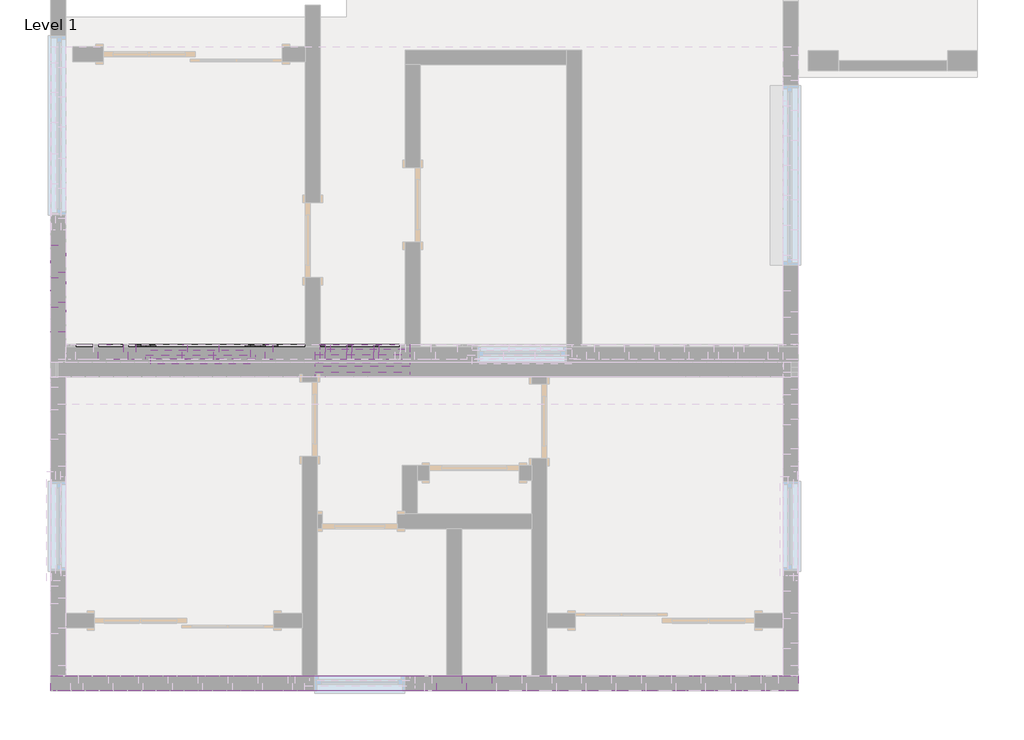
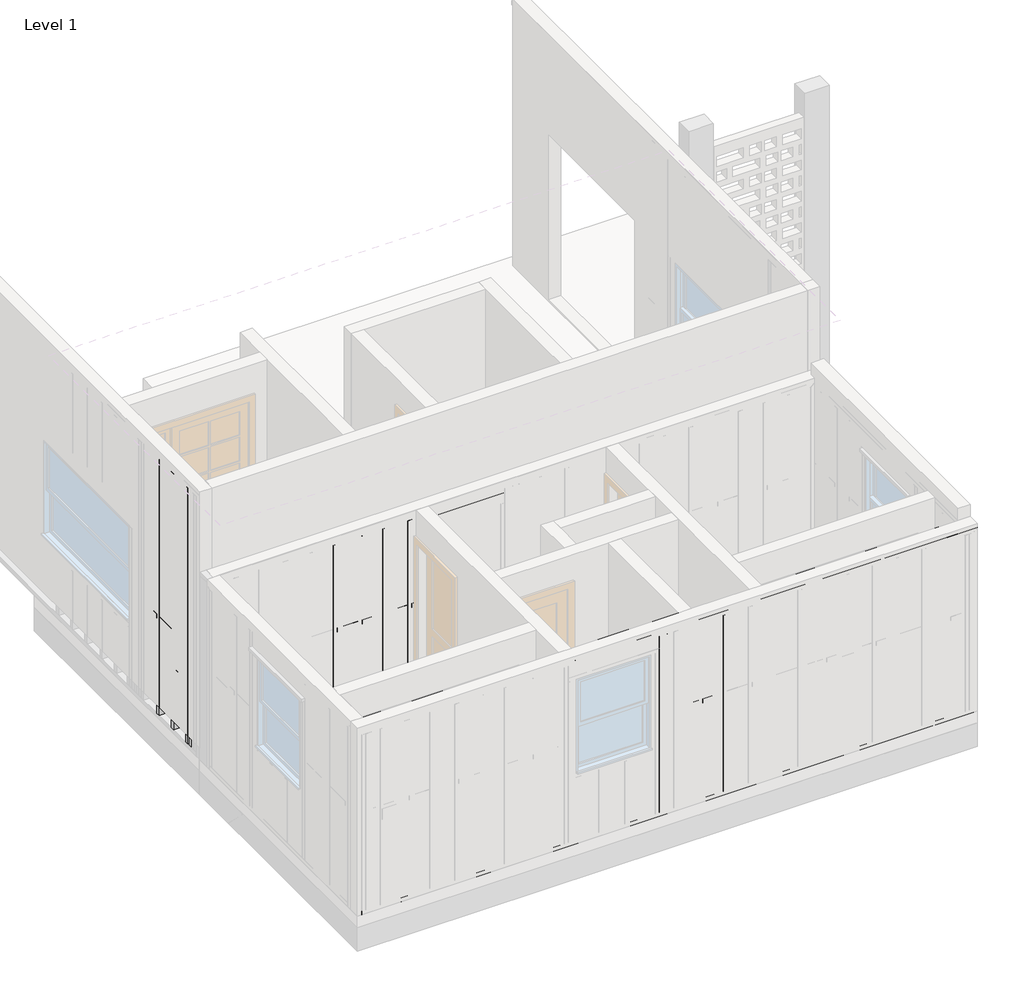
# One storey, part 4 of 12: 100 beams.
"""IFC4 building model written with IfcOpenShell, lengths in millimetres."""

from ifc_helpers import new_model, si_unit, frame, origin, origin_with_axes, place, context, project, spatial, polyline, outline, extrude, transform, mapped, element, save
from components import beam_98278f2a, beam_7a36c676, beam_c94f25b3, beam_4fda8a04, beam_c9519db3, beam_5da65a01, beam_0603a184, beam_5669776f, beam_bd63a015, beam_4a917e0c, beam_8cce5a94, beam_558964e0, beam_a6087a68, beam_1bbe21a3, beam_7e436a35, beam_47c8efd2, beam_e0216813, beam_4715e774, beam_b7962ac8, beam_15472744, beam_b2f74068, beam_e05c4371, beam_19b97b81, beam_0edfb8d4, beam_7d02393c, beam_98f1c117, beam_62b04b6a, beam_4316c0f3, beam_02d80ba5, beam_1bebb228, beam_e56b1697, beam_ed930484, beam_3b652aa8, beam_1c1e8c08, beam_a4d90c35, beam_da0a946a, beam_9d6aa0d6, beam_9570771f, beam_e5826ba7, beam_837af8cf

model = new_model("IFC4")

# Units and contexts
model_context = context("Model", 3, world=origin())
ifc_project = project(units=[si_unit("LENGTHUNIT", "METRE", prefix="MILLI")], contexts=[model_context])

# Site, building, storey
site = spatial("IfcSite", under=ifc_project)
building = spatial("IfcBuilding", under=site)
storey = spatial("IfcBuildingStorey", under=building, Name="Level 1", Elevation=0.0)

# Beams
placement = place(None, origin())
beam_shape = beam_98278f2a(model_context)
element("IfcBeam", 1, ObjectType="Rectangular(Timber)-Beam : Timber_0' - 1 31/32\" x0' - 3 15/16\" _ContentGenerator", at=placement, inside=storey, context=model_context, shape_type="MappedRepresentation", body=[
    mapped(beam_shape, transform((-8352.1390766, -25313.1763369, 2235.2), x_axis=(-1.0, 0.0, 0.0), y_axis=(0.0, -1.0, 0.0), z_axis=(0.0, 0.0, 1.0))),
])
element("IfcBeam", 2, ObjectType="Rectangular(Timber)-Beam : Timber_0' - 1 31/32\" x0' - 5 29/32\" _ContentGenerator", at=placement, inside=storey, context=model_context, shape_type="SweptSolid", body=[
    extrude(outline(polyline([(2336.8, -3960.4740766), (2387.6, -3909.6740766), (2387.6, -11529.6690766), (2336.8, -11478.8690766), (2336.8, -3960.4740766)])), frame((0.0, -28538.9763369, 0.0), z_axis=(0.0, 1.0, 0.0), x_axis=(0.0, 0.0, 1.0)), (0.0, 0.0, 1.0), 152.4),
])
element("IfcBeam", 3, ObjectType="Rectangular(Timber)-Beam : Timber_0' - 1 31/32\" x0' - 5 29/32\" _ContentGenerator", at=placement, inside=storey, context=model_context, shape_type="SweptSolid", body=[
    extrude(outline(polyline([(-7821.2890766, -28386.5763369), (-7770.4890766, -28386.5763369), (-7770.4890766, -28538.9763369), (-7821.2890766, -28538.9763369), (-7821.2890766, -28386.5763369)])), frame((0.0, 0.0, 50.8), z_axis=(0.0, 0.0, 1.0), x_axis=(1.0, 0.0, 0.0)), (0.0, 0.0, 1.0), 2286.0),
])
element("IfcBeam", 4, ObjectType="Rectangular(Timber)-Beam : Timber_0' - 1 31/32\" x0' - 5 29/32\" _ContentGenerator", at=placement, inside=storey, context=model_context, shape_type="SweptSolid", body=[
    extrude(outline(polyline([(-8781.3890766, -25186.1763369), (-8730.5890766, -25186.1763369), (-8730.5890766, -25338.5763369), (-8781.3890766, -25338.5763369), (-8781.3890766, -25186.1763369)])), origin_with_axes(), (0.0, 0.0, 1.0), 2152.65),
])
element("IfcBeam", 5, ObjectType="Rectangular(Timber)-Beam : Timber_0' - 1 31/32\" x0' - 5 29/32\" _ContentGenerator", at=placement, inside=storey, context=model_context, shape_type="SweptSolid", body=[
    extrude(outline(polyline([(-11478.8690766, -28538.9763369), (-11478.8690766, -28386.5763369), (-3960.4740766, -28386.5763369), (-3960.4740766, -28538.9763369), (-11478.8690766, -28538.9763369)])), origin_with_axes(), (0.0, 0.0, 1.0), 50.8),
])
element("IfcBeam", 6, ObjectType="Rectangular(Timber)-Beam : Timber_0' - 1 31/32\" x0' - 5 29/32\" _ContentGenerator", at=placement, inside=storey, context=model_context, shape_type="SweptSolid", body=[
    extrude(outline(polyline([(-11326.4690766, -25160.7763369), (-11326.4690766, -25008.3763369), (-8882.9890766, -25008.3763369), (-8882.9890766, -25160.7763369), (-11326.4690766, -25160.7763369)])), origin_with_axes(), (0.0, 0.0, 1.0), 50.8),
])
element("IfcBeam", 7, ObjectType="Rectangular(Timber)-Beam : Timber_0' - 1 31/32\" x0' - 5 29/32\" _ContentGenerator", at=placement, inside=storey, context=model_context, shape_type="SweptSolid", body=[
    extrude(outline(polyline([(-8882.9890766, -25186.1763369), (-8832.1890766, -25186.1763369), (-8832.1890766, -25338.5763369), (-8882.9890766, -25338.5763369), (-8882.9890766, -25186.1763369)])), frame((0.0, 0.0, 50.8), z_axis=(0.0, 0.0, 1.0), x_axis=(1.0, 0.0, 0.0)), (0.0, 0.0, 1.0), 2286.0),
])
element("IfcBeam", 8, ObjectType="Rectangular(Timber)-Beam : Timber_0' - 1 31/32\" x0' - 5 29/32\" _ContentGenerator", at=placement, inside=storey, context=model_context, shape_type="SweptSolid", body=[
    extrude(outline(polyline([(-8832.1890766, -25160.7763369), (-8832.1890766, -25008.3763369), (-7872.0840766, -25008.3763369), (-7872.0840766, -25160.7763369), (-8832.1890766, -25160.7763369)])), origin_with_axes(), (0.0, 0.0, 1.0), 50.8),
])
element("IfcBeam", 9, ObjectType="Rectangular(Timber)-Beam : Timber_0' - 1 31/32\" x0' - 5 29/32\" _ContentGenerator", at=placement, inside=storey, context=model_context, shape_type="SweptSolid", body=[
    extrude(outline(polyline([(-8832.1890766, -25186.1763369), (-8781.3890766, -25186.1763369), (-8781.3890766, -25338.5763369), (-8832.1890766, -25338.5763369), (-8832.1890766, -25186.1763369)])), frame((0.0, 0.0, 50.8), z_axis=(0.0, 0.0, 1.0), x_axis=(1.0, 0.0, 0.0)), (0.0, 0.0, 1.0), 2101.85),
])
element("IfcBeam", 10, ObjectType="Rectangular(Timber)-Beam : Timber_0' - 1 31/32\" x0' - 5 29/32\" _ContentGenerator", at=placement, inside=storey, context=model_context, shape_type="SweptSolid", body=[
    extrude(outline(polyline([(-8933.7890766, -25186.1763369), (-8882.9890766, -25186.1763369), (-8882.9890766, -25338.5763369), (-8933.7890766, -25338.5763369), (-8933.7890766, -25186.1763369)])), frame((0.0, 0.0, 50.8), z_axis=(0.0, 0.0, 1.0), x_axis=(1.0, 0.0, 0.0)), (0.0, 0.0, 1.0), 2286.0),
])
beam_2_shape = beam_7a36c676(model_context)
element("IfcBeam", 11, ObjectType="Rectangular(Timber)-Beam : Timber_0' - 1 31/32\" x0' - 5 29/32\" _ContentGenerator", at=placement, inside=storey, context=model_context, shape_type="MappedRepresentation", body=[
    mapped(beam_2_shape, transform((-7452.9790766, -28462.7763369, 1314.45), x_axis=(1.0000000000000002, 0.0, 0.0), y_axis=(0.0, 0.0, -1.0000000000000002), z_axis=(0.0, 1.0000000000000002, 0.0))),
])
beam_3_shape = beam_c94f25b3(model_context)
element("IfcBeam", 12, ObjectType="Rectangular(Timber)-Beam : Timber_0' - 1 31/32\" x0' - 5 29/32\" _ContentGenerator", at=placement, inside=storey, context=model_context, shape_type="MappedRepresentation", body=[
    mapped(beam_3_shape, transform((-8857.5890766, -25084.5763369, 1703.1284875), x_axis=(0.0, 0.0, 1.0), y_axis=(1.0, 0.0, 0.0), z_axis=(0.0, 1.0, 0.0))),
])
beam_4_shape = beam_4fda8a04(model_context)
element("IfcBeam", 13, ObjectType="Rectangular(Timber)-Beam : Timber_0' - 1 31/32\" x0' - 5 29/32\" _ContentGenerator", at=placement, inside=storey, context=model_context, shape_type="MappedRepresentation", body=[
    mapped(beam_4_shape, transform((-8684.0274099, -25084.5763369, 1314.45), x_axis=(1.0000000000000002, 0.0, 0.0), y_axis=(0.0, 0.0, -1.0000000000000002), z_axis=(0.0, 1.0000000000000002, 0.0))),
])
beam_5_shape = beam_c9519db3(model_context)
element("IfcBeam", 14, ObjectType="Rectangular(Timber)-Beam : Timber_0' - 1 31/32\" x0' - 5 29/32\" _ContentGenerator", at=placement, inside=storey, context=model_context, shape_type="MappedRepresentation", body=[
    mapped(beam_5_shape, transform((-8891.5936983, -25084.5763369, 1703.1284875), x_axis=(0.0, 0.0, 1.0), y_axis=(1.0, 0.0, 0.0), z_axis=(0.0, 1.0, 0.0))),
])
beam_6_shape = beam_5da65a01(model_context)
element("IfcBeam", 15, ObjectType="Rectangular(Timber)-Beam : Timber_0' - 1 31/32\" x0' - 5 29/32\" _ContentGenerator", at=placement, inside=storey, context=model_context, shape_type="MappedRepresentation", body=[
    mapped(beam_6_shape, transform((-8020.2457433, -25084.5763369, 1314.45), x_axis=(1.0000000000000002, 0.0, 0.0), y_axis=(0.0, 0.0, -1.0000000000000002), z_axis=(0.0, 1.0000000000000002, 0.0))),
])
beam_7_shape = beam_0603a184(model_context)
element("IfcBeam", 16, ObjectType="Rectangular(Timber)-Beam : Timber_0' - 1 31/32\" x0' - 5 29/32\" _ContentGenerator", at=placement, inside=storey, context=model_context, shape_type="MappedRepresentation", body=[
    mapped(beam_7_shape, transform((-8352.1365766, -25135.3763369, 2260.6), x_axis=(1.0, 0.0, 0.0), y_axis=(0.0, 1.0, 0.0), z_axis=(0.0, 0.0, 1.0))),
])
beam_8_shape = beam_5669776f(model_context)
element("IfcBeam", 17, ObjectType="Rectangular(Timber)-Beam : Timber_0' - 1 31/32\" x0' - 5 29/32\" _ContentGenerator", at=placement, inside=storey, context=model_context, shape_type="MappedRepresentation", body=[
    mapped(beam_8_shape, transform((-8974.4340766, -25262.3763369, 1219.2), x_axis=(-1.0000000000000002, 0.0, 0.0), y_axis=(0.0, 0.0, -1.0000000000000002), z_axis=(0.0, -1.0000000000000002, 0.0))),
])
beam_9_shape = beam_bd63a015(model_context)
element("IfcBeam", 18, ObjectType="Rectangular(Timber)-Beam : Timber_0' - 1 31/32\" x0' - 5 29/32\" _ContentGenerator", at=placement, inside=storey, context=model_context, shape_type="MappedRepresentation", body=[
    mapped(beam_9_shape, transform((-11453.4790766, -24119.3813369, 1314.45), x_axis=(0.0, -1.0000000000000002, 0.0), y_axis=(0.0, 0.0, -1.0000000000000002), z_axis=(1.0000000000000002, 0.0, 0.0))),
])
beam_10_shape = beam_4a917e0c(model_context)
element("IfcBeam", 19, ObjectType="Rectangular(Timber)-Beam : Timber_0' - 1 31/32\" x0' - 5 29/32\" _ContentGenerator", at=placement, inside=storey, context=model_context, shape_type="MappedRepresentation", body=[
    mapped(beam_10_shape, transform((-10697.8290766, -25084.5763369, 1314.45), x_axis=(1.0000000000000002, 0.0, 0.0), y_axis=(0.0, 0.0, -1.0000000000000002), z_axis=(0.0, 1.0000000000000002, 0.0))),
])
beam_11_shape = beam_8cce5a94(model_context)
element("IfcBeam", 20, ObjectType="Rectangular(Timber)-Beam : Timber_0' - 1 31/32\" x0' - 5 29/32\" _ContentGenerator", at=placement, inside=storey, context=model_context, shape_type="MappedRepresentation", body=[
    mapped(beam_11_shape, transform((-9307.1790766, -25084.5763369, 1314.45), x_axis=(1.0000000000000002, 0.0, 0.0), y_axis=(0.0, 0.0, -1.0000000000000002), z_axis=(0.0, 1.0000000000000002, 0.0))),
])
beam_12_shape = beam_558964e0(model_context)
element("IfcBeam", 21, ObjectType="Rectangular(Timber)-Beam : Timber_0' - 1 31/32\" x0' - 5 29/32\" _ContentGenerator", at=placement, inside=storey, context=model_context, shape_type="MappedRepresentation", body=[
    mapped(beam_12_shape, transform((-7745.0890766, -28462.7763369, 1193.8), x_axis=(0.0, 0.0, 1.0), y_axis=(1.0, 0.0, 0.0), z_axis=(0.0, 1.0, 0.0))),
])
element("IfcBeam", 22, ObjectType="Rectangular(Timber)-Beam : Timber_0' - 1 31/32\" x0' - 5 29/32\" _ContentGenerator", at=placement, inside=storey, context=model_context, shape_type="MappedRepresentation", body=[
    mapped(beam_12_shape, transform((-7313.2790766, -28462.7763369, 1193.8), x_axis=(0.0, 0.0, 1.0), y_axis=(1.0, 0.0, 0.0), z_axis=(0.0, 1.0, 0.0))),
])
element("IfcBeam", 23, ObjectType="Rectangular(Timber)-Beam : Timber_0' - 1 31/32\" x0' - 5 29/32\" _ContentGenerator", at=placement, inside=storey, context=model_context, shape_type="MappedRepresentation", body=[
    mapped(beam_12_shape, transform((-7008.4790766, -28462.7763369, 1193.8), x_axis=(0.0, 0.0, 1.0), y_axis=(1.0, 0.0, 0.0), z_axis=(0.0, 1.0, 0.0))),
])
element("IfcBeam", 24, ObjectType="Rectangular(Timber)-Beam : Timber_0' - 1 31/32\" x0' - 5 29/32\" _ContentGenerator", at=placement, inside=storey, context=model_context, shape_type="MappedRepresentation", body=[
    mapped(beam_12_shape, transform((-9040.4790766, -25262.3763369, 1193.8), x_axis=(0.0, 0.0, 1.0), y_axis=(1.0, 0.0, 0.0), z_axis=(0.0, 1.0, 0.0))),
])
element("IfcBeam", 25, ObjectType="Rectangular(Timber)-Beam : Timber_0' - 1 31/32\" x0' - 5 29/32\" _ContentGenerator", at=placement, inside=storey, context=model_context, shape_type="MappedRepresentation", body=[
    mapped(beam_12_shape, transform((-9345.2790766, -25262.3763369, 1193.8), x_axis=(0.0, 0.0, 1.0), y_axis=(1.0, 0.0, 0.0), z_axis=(0.0, 1.0, 0.0))),
])
element("IfcBeam", 26, ObjectType="Rectangular(Timber)-Beam : Timber_0' - 1 31/32\" x0' - 5 29/32\" _ContentGenerator", at=placement, inside=storey, context=model_context, shape_type="MappedRepresentation", body=[
    mapped(beam_12_shape, transform((-9650.0790766, -25262.3763369, 1193.8), x_axis=(0.0, 0.0, 1.0), y_axis=(1.0, 0.0, 0.0), z_axis=(0.0, 1.0, 0.0))),
])
element("IfcBeam", 27, ObjectType="Rectangular(Timber)-Beam : Timber_0' - 1 31/32\" x0' - 5 29/32\" _ContentGenerator", at=placement, inside=storey, context=model_context, shape_type="MappedRepresentation", body=[
    mapped(beam_12_shape, transform((-9954.8790766, -25262.3763369, 1193.8), x_axis=(0.0, 0.0, 1.0), y_axis=(1.0, 0.0, 0.0), z_axis=(0.0, 1.0, 0.0))),
])
beam_13_shape = beam_a6087a68(model_context)
element("IfcBeam", 28, ObjectType="Rectangular(Timber)-Beam : Timber_0' - 1 31/32\" x0' - 5 29/32\" _ContentGenerator", at=placement, inside=storey, context=model_context, shape_type="MappedRepresentation", body=[
    mapped(beam_13_shape, transform((-11453.4790766, -24449.5763369, 1314.45), x_axis=(0.0, -1.0000000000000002, 0.0), y_axis=(0.0, 0.0, -1.0000000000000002), z_axis=(1.0000000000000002, 0.0, 0.0))),
])
element("IfcBeam", 29, ObjectType="Rectangular(Timber)-Beam : Timber_0' - 1 31/32\" x0' - 5 29/32\" _ContentGenerator", at=placement, inside=storey, context=model_context, shape_type="MappedRepresentation", body=[
    mapped(beam_13_shape, transform((-11453.4790766, -24754.3763369, 1314.45), x_axis=(0.0, -1.0000000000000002, 0.0), y_axis=(0.0, 0.0, -1.0000000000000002), z_axis=(1.0000000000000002, 0.0, 0.0))),
])
element("IfcBeam", 30, ObjectType="Rectangular(Timber)-Beam : Timber_0' - 1 31/32\" x0' - 5 29/32\" _ContentGenerator", at=placement, inside=storey, context=model_context, shape_type="MappedRepresentation", body=[
    mapped(beam_13_shape, transform((-10920.0790766, -25084.5763369, 1314.45), x_axis=(1.0000000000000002, 0.0, 0.0), y_axis=(0.0, 0.0, -1.0000000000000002), z_axis=(0.0, 1.0000000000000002, 0.0))),
])
beam_14_shape = beam_1bbe21a3(model_context)
element("IfcBeam", 31, ObjectType="Rectangular(Timber)-Beam : Timber_0' - 1 31/32\" x0' - 5 29/32\" _ContentGenerator", at=placement, inside=storey, context=model_context, shape_type="MappedRepresentation", body=[
    mapped(beam_14_shape, transform((-8349.5990766, -25033.7763369, 2260.6), x_axis=(1.0, 0.0, 0.0), y_axis=(0.0, 1.0, 0.0), z_axis=(0.0, 0.0, 1.0))),
])
beam_15_shape = beam_7e436a35(model_context)
element("IfcBeam", 32, ObjectType="Rectangular(Timber)-Beam : Timber_0' - 1 31/32\" x0' - 5 29/32\" _ContentGenerator", at=placement, inside=storey, context=model_context, shape_type="MappedRepresentation", body=[
    mapped(beam_15_shape, transform((-8755.9890766, -25084.5763369, 2858.8284875), x_axis=(0.0, 0.0, 1.0), y_axis=(1.0, 0.0, 0.0), z_axis=(0.0, 1.0, 0.0))),
])
element("IfcBeam", 33, ObjectType="Rectangular(Timber)-Beam : Timber_0' - 1 31/32\" x0' - 5 29/32\" _ContentGenerator", at=placement, inside=storey, context=model_context, shape_type="MappedRepresentation", body=[
    mapped(beam_15_shape, transform((-8705.1890766, -25084.5763369, 2858.8284875), x_axis=(0.0, 0.0, 1.0), y_axis=(1.0, 0.0, 0.0), z_axis=(0.0, 1.0, 0.0))),
])
beam_16_shape = beam_47c8efd2(model_context)
element("IfcBeam", 34, ObjectType="Rectangular(Timber)-Beam : Timber_0' - 1 31/32\" x0' - 5 29/32\" _ContentGenerator", at=placement, inside=storey, context=model_context, shape_type="MappedRepresentation", body=[
    mapped(beam_16_shape, transform((-7719.6790766, -28462.7763369, 2413.0), x_axis=(1.0000000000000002, 0.0, 0.0), y_axis=(0.0, 0.0, -1.0000000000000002), z_axis=(0.0, 1.0000000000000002, 0.0))),
])
beam_17_shape = beam_e0216813(model_context)
element("IfcBeam", 35, ObjectType="Rectangular(Timber)-Beam : Timber_0' - 1 31/32\" x0' - 5 29/32\" _ContentGenerator", at=placement, inside=storey, context=model_context, shape_type="MappedRepresentation", body=[
    mapped(beam_17_shape, transform((-10488.2790766, -25084.5763369, 1117.6), x_axis=(0.0, 0.0, 1.0), y_axis=(1.0, 0.0, 0.0), z_axis=(0.0, 1.0, 0.0))),
])
element("IfcBeam", 36, ObjectType="Rectangular(Timber)-Beam : Timber_0' - 1 31/32\" x0' - 5 29/32\" _ContentGenerator", at=placement, inside=storey, context=model_context, shape_type="MappedRepresentation", body=[
    mapped(beam_17_shape, transform((-9523.0790766, -25084.5763369, 1117.6), x_axis=(0.0, 0.0, 1.0), y_axis=(1.0, 0.0, 0.0), z_axis=(0.0, 1.0, 0.0))),
])
element("IfcBeam", 37, ObjectType="Rectangular(Timber)-Beam : Timber_0' - 1 31/32\" x0' - 5 29/32\" _ContentGenerator", at=placement, inside=storey, context=model_context, shape_type="MappedRepresentation", body=[
    mapped(beam_17_shape, transform((-9472.2790766, -25084.5763369, 1117.6), x_axis=(0.0, 0.0, 1.0), y_axis=(1.0, 0.0, 0.0), z_axis=(0.0, 1.0, 0.0))),
])
element("IfcBeam", 38, ObjectType="Rectangular(Timber)-Beam : Timber_0' - 1 31/32\" x0' - 5 29/32\" _ContentGenerator", at=placement, inside=storey, context=model_context, shape_type="MappedRepresentation", body=[
    mapped(beam_17_shape, transform((-10539.0790766, -25084.5763369, 1117.6), x_axis=(0.0, 0.0, 1.0), y_axis=(1.0, 0.0, 0.0), z_axis=(0.0, 1.0, 0.0))),
])
beam_18_shape = beam_4715e774(model_context)
element("IfcBeam", 39, ObjectType="Rectangular(Timber)-Beam : Timber_0' - 1 31/32\" x0' - 5 29/32\" _ContentGenerator", at=placement, inside=storey, context=model_context, shape_type="MappedRepresentation", body=[
    mapped(beam_18_shape, transform((-7897.4690766, -28462.7763369, 1092.2), x_axis=(0.0, 0.0, 1.0), y_axis=(1.0, 0.0, 0.0), z_axis=(0.0, 1.0, 0.0))),
])
beam_19_shape = beam_b7962ac8(model_context)
element("IfcBeam", 40, ObjectType="Rectangular(Timber)-Beam : Timber_0' - 1 31/32\" x0' - 5 29/32\" _ContentGenerator", at=placement, inside=storey, context=model_context, shape_type="MappedRepresentation", body=[
    mapped(beam_19_shape, transform((-7948.2690766, -28462.7763369, 457.2), x_axis=(0.0, 0.0, 1.0), y_axis=(1.0, 0.0, 0.0), z_axis=(0.0, 1.0, 0.0))),
])
element("IfcBeam", 41, ObjectType="Rectangular(Timber)-Beam : Timber_0' - 1 31/32\" x0' - 5 29/32\" _ContentGenerator", at=placement, inside=storey, context=model_context, shape_type="MappedRepresentation", body=[
    mapped(beam_19_shape, transform((-10437.4790766, -25084.5763369, 457.2), x_axis=(0.0, 0.0, 1.0), y_axis=(1.0, 0.0, 0.0), z_axis=(0.0, 1.0, 0.0))),
])
element("IfcBeam", 42, ObjectType="Rectangular(Timber)-Beam : Timber_0' - 1 31/32\" x0' - 5 29/32\" _ContentGenerator", at=placement, inside=storey, context=model_context, shape_type="MappedRepresentation", body=[
    mapped(beam_19_shape, transform((-9573.8790766, -25084.5763369, 457.2), x_axis=(0.0, 0.0, 1.0), y_axis=(1.0, 0.0, 0.0), z_axis=(0.0, 1.0, 0.0))),
])
element("IfcBeam", 43, ObjectType="Rectangular(Timber)-Beam : Timber_0' - 1 31/32\" x0' - 5 29/32\" _ContentGenerator", at=placement, inside=storey, context=model_context, shape_type="MappedRepresentation", body=[
    mapped(beam_19_shape, transform((-10166.5557433, -25084.5763369, 457.2), x_axis=(0.0, 0.0, 1.0), y_axis=(1.0, 0.0, 0.0), z_axis=(0.0, 1.0, 0.0))),
])
element("IfcBeam", 44, ObjectType="Rectangular(Timber)-Beam : Timber_0' - 1 31/32\" x0' - 5 29/32\" _ContentGenerator", at=placement, inside=storey, context=model_context, shape_type="MappedRepresentation", body=[
    mapped(beam_19_shape, transform((-9844.8224099, -25084.5763369, 457.2), x_axis=(0.0, 0.0, 1.0), y_axis=(1.0, 0.0, 0.0), z_axis=(0.0, 1.0, 0.0))),
])
beam_20_shape = beam_15472744(model_context)
element("IfcBeam", 45, ObjectType="Rectangular(Timber)-Beam : Timber_0' - 1 31/32\" x0' - 5 29/32\" _ContentGenerator", at=placement, inside=storey, context=model_context, shape_type="MappedRepresentation", body=[
    mapped(beam_20_shape, transform((-9243.6790766, -25084.5763369, 1715.8284875), x_axis=(0.0, 0.0, 1.0), y_axis=(1.0, 0.0, 0.0), z_axis=(0.0, 1.0, 0.0))),
])
element("IfcBeam", 46, ObjectType="Rectangular(Timber)-Beam : Timber_0' - 1 31/32\" x0' - 5 29/32\" _ContentGenerator", at=placement, inside=storey, context=model_context, shape_type="MappedRepresentation", body=[
    mapped(beam_20_shape, transform((-10640.6890512, -25084.5763369, 1715.8284875), x_axis=(0.0, 0.0, 1.0), y_axis=(1.0, 0.0, 0.0), z_axis=(0.0, 1.0, 0.0))),
])
element("IfcBeam", 47, ObjectType="Rectangular(Timber)-Beam : Timber_0' - 1 31/32\" x0' - 5 29/32\" _ContentGenerator", at=placement, inside=storey, context=model_context, shape_type="MappedRepresentation", body=[
    mapped(beam_20_shape, transform((-10589.8790766, -25084.5763369, 1715.8284875), x_axis=(0.0, 0.0, 1.0), y_axis=(1.0, 0.0, 0.0), z_axis=(0.0, 1.0, 0.0))),
])
element("IfcBeam", 48, ObjectType="Rectangular(Timber)-Beam : Timber_0' - 1 31/32\" x0' - 5 29/32\" _ContentGenerator", at=placement, inside=storey, context=model_context, shape_type="MappedRepresentation", body=[
    mapped(beam_20_shape, transform((-9421.4790766, -25084.5763369, 1715.8284875), x_axis=(0.0, 0.0, 1.0), y_axis=(1.0, 0.0, 0.0), z_axis=(0.0, 1.0, 0.0))),
])
element("IfcBeam", 49, ObjectType="Rectangular(Timber)-Beam : Timber_0' - 1 31/32\" x0' - 5 29/32\" _ContentGenerator", at=placement, inside=storey, context=model_context, shape_type="MappedRepresentation", body=[
    mapped(beam_20_shape, transform((-9370.6790766, -25084.5763369, 1715.8284875), x_axis=(0.0, 0.0, 1.0), y_axis=(1.0, 0.0, 0.0), z_axis=(0.0, 1.0, 0.0))),
])
beam_21_shape = beam_b2f74068(model_context)
element("IfcBeam", 50, ObjectType="Rectangular(Timber)-Beam : Timber_0' - 1 31/32\" x0' - 5 29/32\" _ContentGenerator", at=placement, inside=storey, context=model_context, shape_type="MappedRepresentation", body=[
    mapped(beam_21_shape, transform((-11453.4790766, -24297.1763369, 1714.5), x_axis=(0.0, 0.0, 1.0), y_axis=(0.0, -1.0, 0.0), z_axis=(1.0, 0.0, 0.0))),
])
element("IfcBeam", 51, ObjectType="Rectangular(Timber)-Beam : Timber_0' - 1 31/32\" x0' - 5 29/32\" _ContentGenerator", at=placement, inside=storey, context=model_context, shape_type="MappedRepresentation", body=[
    mapped(beam_21_shape, transform((-11453.4790766, -24601.9763369, 1714.5), x_axis=(0.0, 0.0, 1.0), y_axis=(0.0, -1.0, 0.0), z_axis=(1.0, 0.0, 0.0))),
])
element("IfcBeam", 52, ObjectType="Rectangular(Timber)-Beam : Timber_0' - 1 31/32\" x0' - 5 29/32\" _ContentGenerator", at=placement, inside=storey, context=model_context, shape_type="MappedRepresentation", body=[
    mapped(beam_21_shape, transform((-11453.4790766, -24906.7763369, 1714.5), x_axis=(0.0, 0.0, 1.0), y_axis=(0.0, -1.0, 0.0), z_axis=(1.0, 0.0, 0.0))),
])
element("IfcBeam", 53, ObjectType="Rectangular(Timber)-Beam : Timber_0' - 1 31/32\" x0' - 5 29/32\" _ContentGenerator", at=placement, inside=storey, context=model_context, shape_type="MappedRepresentation", body=[
    mapped(beam_21_shape, transform((-11453.4790766, -24982.9813369, 1714.5), x_axis=(0.0, 0.0, 1.0), y_axis=(0.0, -1.0, 0.0), z_axis=(1.0, 0.0, 0.0))),
])
beam_22_shape = beam_e05c4371(model_context)
element("IfcBeam", 54, ObjectType="Rectangular(Timber)-Beam : Timber_0' - 1 31/32\" x0' - 5 29/32\" _ContentGenerator", at=placement, inside=storey, context=model_context, shape_type="MappedRepresentation", body=[
    mapped(beam_22_shape, transform((-10005.6790766, -25084.5763369, 889.0), x_axis=(1.0000000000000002, 0.0, 0.0), y_axis=(0.0, 0.0, -1.0000000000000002), z_axis=(0.0, 1.0000000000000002, 0.0))),
])
beam_23_shape = beam_19b97b81(model_context)
element("IfcBeam", 55, ObjectType="Rectangular(Timber)-Beam : Timber_0' - 1 31/32\" x0' - 5 29/32\" _ContentGenerator", at=placement, inside=storey, context=model_context, shape_type="MappedRepresentation", body=[
    mapped(beam_23_shape, transform((-7160.8790766, -28462.7763369, 1314.45), x_axis=(1.0000000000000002, 0.0, 0.0), y_axis=(0.0, 0.0, -1.0000000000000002), z_axis=(0.0, 1.0000000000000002, 0.0))),
])
element("IfcBeam", 56, ObjectType="Rectangular(Timber)-Beam : Timber_0' - 1 31/32\" x0' - 5 29/32\" _ContentGenerator", at=placement, inside=storey, context=model_context, shape_type="MappedRepresentation", body=[
    mapped(beam_23_shape, transform((-9192.8790766, -25262.3763369, 1219.2), x_axis=(-1.0000000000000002, 0.0, 0.0), y_axis=(0.0, 0.0, -1.0000000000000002), z_axis=(0.0, -1.0000000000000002, 0.0))),
])
element("IfcBeam", 57, ObjectType="Rectangular(Timber)-Beam : Timber_0' - 1 31/32\" x0' - 5 29/32\" _ContentGenerator", at=placement, inside=storey, context=model_context, shape_type="MappedRepresentation", body=[
    mapped(beam_23_shape, transform((-9497.6790766, -25262.3763369, 1219.2), x_axis=(-1.0000000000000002, 0.0, 0.0), y_axis=(0.0, 0.0, -1.0000000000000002), z_axis=(0.0, -1.0000000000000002, 0.0))),
])
element("IfcBeam", 58, ObjectType="Rectangular(Timber)-Beam : Timber_0' - 1 31/32\" x0' - 5 29/32\" _ContentGenerator", at=placement, inside=storey, context=model_context, shape_type="MappedRepresentation", body=[
    mapped(beam_23_shape, transform((-9802.4790766, -25262.3763369, 1219.2), x_axis=(-1.0000000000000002, 0.0, 0.0), y_axis=(0.0, 0.0, -1.0000000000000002), z_axis=(0.0, -1.0000000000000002, 0.0))),
])
beam_24_shape = beam_0edfb8d4(model_context)
element("IfcBeam", 59, ObjectType="Rectangular(Timber)-Beam : Timber_0' - 1 31/32\" x0' - 5 29/32\" _ContentGenerator", at=placement, inside=storey, context=model_context, shape_type="MappedRepresentation", body=[
    mapped(beam_24_shape, transform((-8755.9890766, -25084.5763369, 1092.2), x_axis=(0.0, 0.0, 1.0), y_axis=(1.0, 0.0, 0.0), z_axis=(0.0, 1.0, 0.0))),
])
element("IfcBeam", 60, ObjectType="Rectangular(Timber)-Beam : Timber_0' - 1 31/32\" x0' - 5 29/32\" _ContentGenerator", at=placement, inside=storey, context=model_context, shape_type="MappedRepresentation", body=[
    mapped(beam_24_shape, transform((-8806.7890766, -25084.5763369, 1092.2), x_axis=(0.0, 0.0, 1.0), y_axis=(1.0, 0.0, 0.0), z_axis=(0.0, 1.0, 0.0))),
])
element("IfcBeam", 61, ObjectType="Rectangular(Timber)-Beam : Timber_0' - 1 31/32\" x0' - 5 29/32\" _ContentGenerator", at=placement, inside=storey, context=model_context, shape_type="MappedRepresentation", body=[
    mapped(beam_15_shape, transform((-8485.0657433, -25084.5763369, 2858.8284875), x_axis=(0.0, 0.0, 1.0), y_axis=(1.0, 0.0, 0.0), z_axis=(0.0, 1.0, 0.0))),
])
element("IfcBeam", 62, ObjectType="Rectangular(Timber)-Beam : Timber_0' - 1 31/32\" x0' - 5 29/32\" _ContentGenerator", at=placement, inside=storey, context=model_context, shape_type="MappedRepresentation", body=[
    mapped(beam_15_shape, transform((-8214.1324099, -25084.5763369, 2858.8284875), x_axis=(0.0, 0.0, 1.0), y_axis=(1.0, 0.0, 0.0), z_axis=(0.0, 1.0, 0.0))),
])
beam_25_shape = beam_7d02393c(model_context)
element("IfcBeam", 63, ObjectType="Rectangular(Timber)-Beam : Timber_0' - 1 31/32\" x0' - 5 29/32\" _ContentGenerator", at=placement, inside=storey, context=model_context, shape_type="MappedRepresentation", body=[
    mapped(beam_25_shape, transform((-8485.0657433, -25084.5763369, 1168.4), x_axis=(0.0, 0.0, 1.0), y_axis=(1.0, 0.0, 0.0), z_axis=(0.0, 1.0, 0.0))),
])
element("IfcBeam", 64, ObjectType="Rectangular(Timber)-Beam : Timber_0' - 1 31/32\" x0' - 5 29/32\" _ContentGenerator", at=placement, inside=storey, context=model_context, shape_type="MappedRepresentation", body=[
    mapped(beam_25_shape, transform((-8214.1324099, -25084.5763369, 1168.4), x_axis=(0.0, 0.0, 1.0), y_axis=(1.0, 0.0, 0.0), z_axis=(0.0, 1.0, 0.0))),
])
beam_26_shape = beam_98f1c117(model_context)
element("IfcBeam", 65, ObjectType="Rectangular(Timber)-Beam : Timber_0' - 1 31/32\" x0' - 5 29/32\" _ContentGenerator", at=placement, inside=storey, context=model_context, shape_type="MappedRepresentation", body=[
    mapped(beam_26_shape, transform((-8349.5940763, -25084.5763369, 1314.45), x_axis=(1.0000000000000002, 0.0, 0.0), y_axis=(0.0, 0.0, -1.0000000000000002), z_axis=(0.0, 1.0000000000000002, 0.0))),
])
beam_27_shape = beam_62b04b6a(model_context)
element("IfcBeam", 66, ObjectType="Rectangular(Timber)-Beam : Timber_0' - 1 31/32\" x0' - 5 29/32\" _ContentGenerator", at=placement, inside=storey, context=model_context, shape_type="MappedRepresentation", body=[
    mapped(beam_27_shape, transform((-10166.5457433, -25084.5763369, 2874.7034875), x_axis=(0.0, 0.0, 1.0), y_axis=(1.0, 0.0, 0.0), z_axis=(0.0, 1.0, 0.0))),
])
element("IfcBeam", 67, ObjectType="Rectangular(Timber)-Beam : Timber_0' - 1 31/32\" x0' - 5 29/32\" _ContentGenerator", at=placement, inside=storey, context=model_context, shape_type="MappedRepresentation", body=[
    mapped(beam_27_shape, transform((-9844.8124099, -25084.5763369, 2874.7034875), x_axis=(0.0, 0.0, 1.0), y_axis=(1.0, 0.0, 0.0), z_axis=(0.0, 1.0, 0.0))),
])
beam_28_shape = beam_4316c0f3(model_context)
element("IfcBeam", 68, ObjectType="WallPlates : 6\" x 2\"", at=placement, inside=storey, context=model_context, shape_type="MappedRepresentation", body=[
    mapped(beam_28_shape, transform((-10005.6890766, -25135.3763369, 2165.35), x_axis=(1.0, 0.0, 0.0), y_axis=(0.0, 1.0, 0.0), z_axis=(0.0, 0.0, 1.0))),
])
beam_29_shape = beam_02d80ba5(model_context)
element("IfcBeam", 69, ObjectType="WallPlates : 6\" x 3\"", at=placement, inside=storey, context=model_context, shape_type="MappedRepresentation", body=[
    mapped(beam_29_shape, transform((-9050.6340766, -25125.8513369, 809.8890829), x_axis=(1.0000000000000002, 0.0, 0.0), y_axis=(0.0, 0.0, -1.0000000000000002), z_axis=(0.0, 1.0000000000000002, 0.0))),
])
beam_30_shape = beam_1bebb228(model_context)
element("IfcBeam", 70, ObjectType="WallPlates : 6\" x 3\"", at=placement, inside=storey, context=model_context, shape_type="MappedRepresentation", body=[
    mapped(beam_30_shape, transform((-8671.3274099, -25125.8513369, 809.8890829), x_axis=(1.0000000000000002, 0.0, 0.0), y_axis=(0.0, 0.0, -1.0000000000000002), z_axis=(0.0, 1.0000000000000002, 0.0))),
])
beam_31_shape = beam_e56b1697(model_context)
element("IfcBeam", 71, ObjectType="WallPlates : 6\" x 3\"", at=placement, inside=storey, context=model_context, shape_type="MappedRepresentation", body=[
    mapped(beam_31_shape, transform((-8374.9990763, -25125.8513369, 809.8890829), x_axis=(1.0000000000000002, 0.0, 0.0), y_axis=(0.0, 0.0, -1.0000000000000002), z_axis=(0.0, 1.0000000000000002, 0.0))),
])
beam_32_shape = beam_ed930484(model_context)
element("IfcBeam", 72, ObjectType="WallPlates : 6\" x 3\"", at=placement, inside=storey, context=model_context, shape_type="MappedRepresentation", body=[
    mapped(beam_32_shape, transform((-8007.5457433, -25125.8513369, 1219.2), x_axis=(1.0000000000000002, 0.0, 0.0), y_axis=(0.0, 0.0, -1.0000000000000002), z_axis=(0.0, 1.0000000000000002, 0.0))),
])
beam_33_shape = beam_3b652aa8(model_context)
element("IfcBeam", 73, ObjectType="WallPlates : 6\" x 3\"", at=placement, inside=storey, context=model_context, shape_type="MappedRepresentation", body=[
    mapped(beam_33_shape, transform((-8936.3340766, -25262.3763369, 1123.95), x_axis=(-1.0000000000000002, 0.0, 0.0), y_axis=(0.0, 0.0, -1.0000000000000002), z_axis=(0.0, -1.0000000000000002, 0.0))),
])
beam_34_shape = beam_1c1e8c08(model_context)
element("IfcBeam", 74, ObjectType="WallPlates : 6\" x 3\"", at=placement, inside=storey, context=model_context, shape_type="MappedRepresentation", body=[
    mapped(beam_34_shape, transform((-8030.4082429, -25125.8513369, 809.8890829), x_axis=(1.0000000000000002, 0.0, 0.0), y_axis=(0.0, 0.0, -1.0000000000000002), z_axis=(0.0, 1.0000000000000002, 0.0))),
])
beam_35_shape = beam_a4d90c35(model_context)
element("IfcBeam", 75, ObjectType="WallPlates : 6\" x 3\"", at=placement, inside=storey, context=model_context, shape_type="MappedRepresentation", body=[
    mapped(beam_35_shape, transform((-9396.0790766, -25125.8513369, 1219.2), x_axis=(1.0000000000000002, 0.0, 0.0), y_axis=(0.0, 0.0, -1.0000000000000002), z_axis=(0.0, 1.0000000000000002, 0.0))),
])
beam_36_shape = beam_da0a946a(model_context)
element("IfcBeam", 76, ObjectType="WallPlates : 6\" x 3\"", at=placement, inside=storey, context=model_context, shape_type="MappedRepresentation", body=[
    mapped(beam_36_shape, transform((-9050.6340766, -25125.8513369, 1219.2), x_axis=(1.0000000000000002, 0.0, 0.0), y_axis=(0.0, 0.0, -1.0000000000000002), z_axis=(0.0, 1.0000000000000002, 0.0))),
])
beam_37_shape = beam_9d6aa0d6(model_context)
element("IfcBeam", 77, ObjectType="WallPlates : 6\" x 3\"", at=placement, inside=storey, context=model_context, shape_type="MappedRepresentation", body=[
    mapped(beam_37_shape, transform((-11494.7540766, -24119.3763369, 1219.2), x_axis=(0.0, -1.0000000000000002, 0.0), y_axis=(0.0, 0.0, -1.0000000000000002), z_axis=(1.0000000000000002, 0.0, 0.0))),
])
element("IfcBeam", 78, ObjectType="WallPlates : 6\" x 3\"", at=placement, inside=storey, context=model_context, shape_type="MappedRepresentation", body=[
    mapped(beam_37_shape, transform((-7186.2790766, -28504.0513369, 1219.2), x_axis=(1.0000000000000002, 0.0, 0.0), y_axis=(0.0, 0.0, -1.0000000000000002), z_axis=(0.0, 1.0000000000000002, 0.0))),
])
element("IfcBeam", 79, ObjectType="WallPlates : 6\" x 3\"", at=placement, inside=storey, context=model_context, shape_type="MappedRepresentation", body=[
    mapped(beam_37_shape, transform((-11494.7540766, -24119.3763369, 787.4), x_axis=(0.0, -1.0000000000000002, 0.0), y_axis=(0.0, 0.0, -1.0000000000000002), z_axis=(1.0000000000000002, 0.0, 0.0))),
])
element("IfcBeam", 80, ObjectType="WallPlates : 6\" x 3\"", at=placement, inside=storey, context=model_context, shape_type="MappedRepresentation", body=[
    mapped(beam_37_shape, transform((-11494.7540766, -24424.1763369, 787.4), x_axis=(0.0, -1.0000000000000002, 0.0), y_axis=(0.0, 0.0, -1.0000000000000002), z_axis=(1.0000000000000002, 0.0, 0.0))),
])
element("IfcBeam", 81, ObjectType="WallPlates : 6\" x 3\"", at=placement, inside=storey, context=model_context, shape_type="MappedRepresentation", body=[
    mapped(beam_37_shape, transform((-10945.4790766, -25125.8513369, 809.8890829), x_axis=(1.0000000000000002, 0.0, 0.0), y_axis=(0.0, 0.0, -1.0000000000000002), z_axis=(0.0, 1.0000000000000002, 0.0))),
])
element("IfcBeam", 82, ObjectType="WallPlates : 6\" x 3\"", at=placement, inside=storey, context=model_context, shape_type="MappedRepresentation", body=[
    mapped(beam_37_shape, transform((-10640.6790766, -25125.8513369, 809.8890829), x_axis=(1.0000000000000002, 0.0, 0.0), y_axis=(0.0, 0.0, -1.0000000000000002), z_axis=(0.0, 1.0000000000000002, 0.0))),
])
element("IfcBeam", 83, ObjectType="WallPlates : 6\" x 3\"", at=placement, inside=storey, context=model_context, shape_type="MappedRepresentation", body=[
    mapped(beam_37_shape, transform((-10335.8790766, -25125.8513369, 809.8890829), x_axis=(1.0000000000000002, 0.0, 0.0), y_axis=(0.0, 0.0, -1.0000000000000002), z_axis=(0.0, 1.0000000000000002, 0.0))),
])
element("IfcBeam", 84, ObjectType="WallPlates : 6\" x 3\"", at=placement, inside=storey, context=model_context, shape_type="MappedRepresentation", body=[
    mapped(beam_37_shape, transform((-10031.0790766, -25125.8513369, 809.8890829), x_axis=(1.0000000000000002, 0.0, 0.0), y_axis=(0.0, 0.0, -1.0000000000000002), z_axis=(0.0, 1.0000000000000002, 0.0))),
])
element("IfcBeam", 85, ObjectType="WallPlates : 6\" x 3\"", at=placement, inside=storey, context=model_context, shape_type="MappedRepresentation", body=[
    mapped(beam_37_shape, transform((-9726.2790766, -25125.8513369, 809.8890829), x_axis=(1.0000000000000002, 0.0, 0.0), y_axis=(0.0, 0.0, -1.0000000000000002), z_axis=(0.0, 1.0000000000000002, 0.0))),
])
element("IfcBeam", 86, ObjectType="WallPlates : 6\" x 3\"", at=placement, inside=storey, context=model_context, shape_type="MappedRepresentation", body=[
    mapped(beam_37_shape, transform((-9421.4790766, -25125.8513369, 809.8890829), x_axis=(1.0000000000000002, 0.0, 0.0), y_axis=(0.0, 0.0, -1.0000000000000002), z_axis=(0.0, 1.0000000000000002, 0.0))),
])
element("IfcBeam", 87, ObjectType="WallPlates : 6\" x 3\"", at=placement, inside=storey, context=model_context, shape_type="MappedRepresentation", body=[
    mapped(beam_35_shape, transform((-11494.7540766, -24449.5763369, 1219.2), x_axis=(0.0, -1.0000000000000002, 0.0), y_axis=(0.0, 0.0, -1.0000000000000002), z_axis=(1.0000000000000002, 0.0, 0.0))),
])
element("IfcBeam", 88, ObjectType="WallPlates : 6\" x 3\"", at=placement, inside=storey, context=model_context, shape_type="MappedRepresentation", body=[
    mapped(beam_35_shape, transform((-11494.7540766, -24754.3763369, 1219.2), x_axis=(0.0, -1.0000000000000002, 0.0), y_axis=(0.0, 0.0, -1.0000000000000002), z_axis=(1.0000000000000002, 0.0, 0.0))),
])
element("IfcBeam", 89, ObjectType="WallPlates : 6\" x 3\"", at=placement, inside=storey, context=model_context, shape_type="MappedRepresentation", body=[
    mapped(beam_35_shape, transform((-7465.6790766, -28504.0513369, 1219.2), x_axis=(1.0000000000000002, 0.0, 0.0), y_axis=(0.0, 0.0, -1.0000000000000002), z_axis=(0.0, 1.0000000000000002, 0.0))),
])
element("IfcBeam", 90, ObjectType="WallPlates : 6\" x 3\"", at=placement, inside=storey, context=model_context, shape_type="MappedRepresentation", body=[
    mapped(beam_35_shape, transform((-9192.8790766, -25262.3763369, 1123.95), x_axis=(-1.0000000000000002, 0.0, 0.0), y_axis=(0.0, 0.0, -1.0000000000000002), z_axis=(0.0, -1.0000000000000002, 0.0))),
])
element("IfcBeam", 91, ObjectType="WallPlates : 6\" x 3\"", at=placement, inside=storey, context=model_context, shape_type="MappedRepresentation", body=[
    mapped(beam_35_shape, transform((-9497.6790766, -25262.3763369, 1123.95), x_axis=(-1.0000000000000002, 0.0, 0.0), y_axis=(0.0, 0.0, -1.0000000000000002), z_axis=(0.0, -1.0000000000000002, 0.0))),
])
element("IfcBeam", 92, ObjectType="WallPlates : 6\" x 3\"", at=placement, inside=storey, context=model_context, shape_type="MappedRepresentation", body=[
    mapped(beam_35_shape, transform((-9802.4790766, -25262.3763369, 1123.95), x_axis=(-1.0000000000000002, 0.0, 0.0), y_axis=(0.0, 0.0, -1.0000000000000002), z_axis=(0.0, -1.0000000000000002, 0.0))),
])
element("IfcBeam", 93, ObjectType="WallPlates : 6\" x 3\"", at=placement, inside=storey, context=model_context, shape_type="MappedRepresentation", body=[
    mapped(beam_35_shape, transform((-10107.2790766, -25262.3763369, 1123.95), x_axis=(-1.0000000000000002, 0.0, 0.0), y_axis=(0.0, 0.0, -1.0000000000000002), z_axis=(0.0, -1.0000000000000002, 0.0))),
])
element("IfcBeam", 94, ObjectType="WallPlates : 6\" x 3\"", at=placement, inside=storey, context=model_context, shape_type="MappedRepresentation", body=[
    mapped(beam_35_shape, transform((-10412.0790766, -25262.3763369, 1123.95), x_axis=(-1.0000000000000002, 0.0, 0.0), y_axis=(0.0, 0.0, -1.0000000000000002), z_axis=(0.0, -1.0000000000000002, 0.0))),
])
element("IfcBeam", 95, ObjectType="WallPlates : 6\" x 3\"", at=placement, inside=storey, context=model_context, shape_type="MappedRepresentation", body=[
    mapped(beam_35_shape, transform((-10716.8790766, -25262.3763369, 1123.95), x_axis=(-1.0000000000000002, 0.0, 0.0), y_axis=(0.0, 0.0, -1.0000000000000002), z_axis=(0.0, -1.0000000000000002, 0.0))),
])
element("IfcBeam", 96, ObjectType="WallPlates : 6\" x 3\"", at=placement, inside=storey, context=model_context, shape_type="MappedRepresentation", body=[
    mapped(beam_37_shape, transform((-11494.7540766, -24728.9763369, 787.4), x_axis=(0.0, -1.0000000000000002, 0.0), y_axis=(0.0, 0.0, -1.0000000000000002), z_axis=(1.0000000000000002, 0.0, 0.0))),
])
beam_38_shape = beam_9570771f(model_context)
element("IfcBeam", 97, ObjectType="WallPlates : 6\" x 3\"", at=placement, inside=storey, context=model_context, shape_type="MappedRepresentation", body=[
    mapped(beam_38_shape, transform((-8349.5940763, -25125.8513369, 1219.2), x_axis=(1.0000000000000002, 0.0, 0.0), y_axis=(0.0, 0.0, -1.0000000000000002), z_axis=(0.0, 1.0000000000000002, 0.0))),
])
element("IfcBeam", 98, ObjectType="WallPlates : 6\" x 3\"", at=placement, inside=storey, context=model_context, shape_type="MappedRepresentation", body=[
    mapped(beam_32_shape, transform((-8696.7274099, -25125.8513369, 1219.2), x_axis=(1.0000000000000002, 0.0, 0.0), y_axis=(0.0, 0.0, -1.0000000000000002), z_axis=(0.0, 1.0000000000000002, 0.0))),
])
beam_39_shape = beam_e5826ba7(model_context)
element("IfcBeam", 99, ObjectType="WallPlates : 8\" x 2\"", at=placement, inside=storey, context=model_context, shape_type="MappedRepresentation", body=[
    mapped(beam_39_shape, transform((-10005.6790766, -25135.3763369, 2276.475), x_axis=(1.0, 0.0, 0.0), y_axis=(0.0, 0.0, -1.0), z_axis=(0.0, 1.0, 0.0))),
])
beam_40_shape = beam_837af8cf(model_context)
element("IfcBeam", 100, ObjectType="WallPlates : 8\" x 2\"", at=placement, inside=storey, context=model_context, shape_type="MappedRepresentation", body=[
    mapped(beam_40_shape, transform((-8352.1390766, -25211.5763369, 2244.725), x_axis=(-1.0, 0.0, 0.0), y_axis=(0.0, 0.0, -1.0), z_axis=(0.0, -1.0, 0.0))),
])

save(model, "model.ifc")
